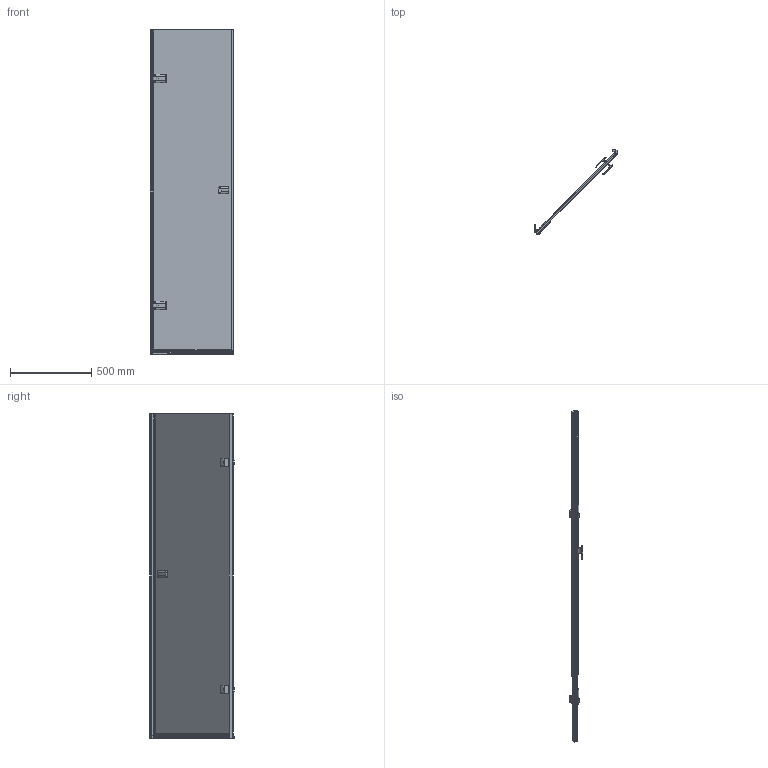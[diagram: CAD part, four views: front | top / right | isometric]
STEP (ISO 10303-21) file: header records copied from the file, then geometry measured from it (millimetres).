
FILE_DESCRIPTION(/* description */ (''),/* implementation_level */ '2;1');
FILE_NAME(/* name */ 'E:\Работа\Сергей\Душевые кабинки\! Работа\TREND DOOR GK-861G135\TREND DOOR GK-861G135 левая модель\TREND DOOR GK-861G135 ЛЕВАЯ-3D.stp',/* time_stamp */ '2017-09-09T12:50:28+03:00',/* author */ ('PC'),/* organization */ (''),/* preprocessor_version */ 'ST-DEVELOPER v15.2',/* originating_system */ 'Autodesk Inventor 2014',/* authorisation */ '');
FILE_SCHEMA (('AUTOMOTIVE_DESIGN { 1 0 10303 214 3 1 1 }'));
Length unit declared in the file: millimetre
Products named in the file (1): TREND DOOR GK-861G135 ЛЕВАЯ-3D
Bounding box: 515.64 x 520.3 x 2000 mm (x, y, z)
Volume: 9850776.8 mm3; surface area: 3368353.8 mm2
Topology: 3 solids, 5 shells, 677 faces, 1860 edges, 1162 vertices
Faces by surface type: plane 401, cylinder 206, bspline 48, torus 16, sphere 4, cone 2
Full cylindrical faces by diameter (mm): 12 x2
Entity records: 23657 total; most frequent: CARTESIAN_POINT 5797, ORIENTED_EDGE 3660, DIRECTION 3470, EDGE_CURVE 1826, LINE 1298, VECTOR 1298, VERTEX_POINT 1160, AXIS2_PLACEMENT_3D 1086
